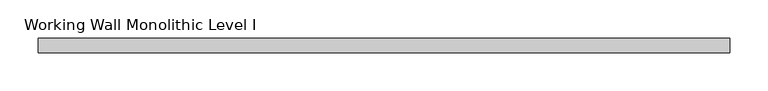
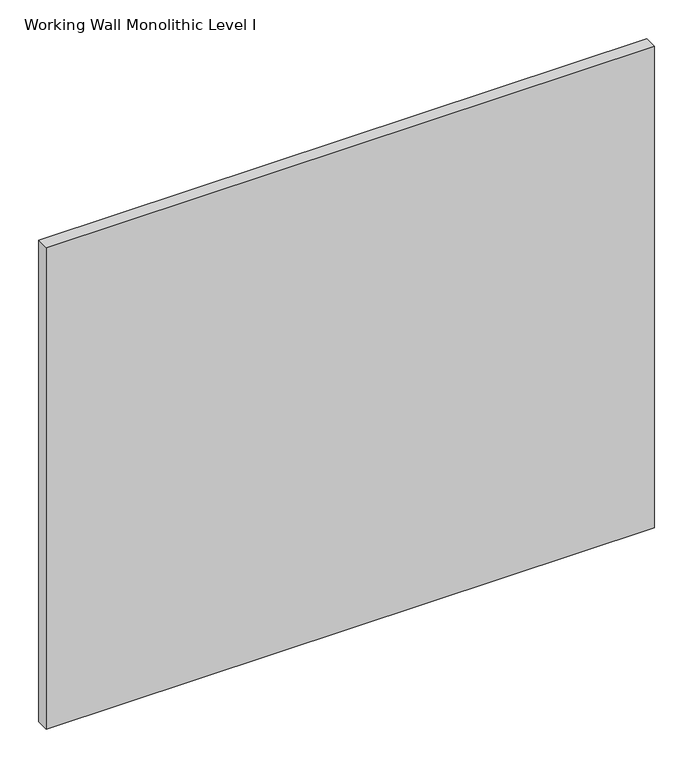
"""IFC4 building model written with IfcOpenShell, lengths in millimetres: proxy geometry, Panel-Fascia-Teknion-Altos-Standard : Working Wall Monolithic Level I."""

from ifc_helpers import new_model, si_unit, frame, origin, place, context, project, spatial, polyline, outline, extrude, source, transform, mapped, element, save


def working_wall_monolithic_level_i_34c567cd(model_context):
    return source(origin(), model_context, "Body", "SweptSolid", [
        extrude(outline(polyline([(454.025, -9.525), (-454.025, -9.525), (-454.025, 9.525), (454.025, 9.525), (454.025, -9.525)])), frame((0.0, 0.0, 3.175), z_axis=(0.0, 0.0, 1.0), x_axis=(1.0, 0.0, 0.0)), (0.0, 0.0, 1.0), 759.968),
    ])


if __name__ == "__main__":
    model = new_model("IFC4")
    model_context = context("Model", 3, world=origin())
    ifc_project = project(units=[si_unit("LENGTHUNIT", "METRE", prefix="MILLI")], contexts=[model_context])
    site = spatial("IfcSite", under=ifc_project)
    building = spatial("IfcBuilding", under=site)
    placement = place(None, origin())
    working_wall_monolithic_level_i_shape = working_wall_monolithic_level_i_34c567cd(model_context)
    element("IfcBuildingElementProxy", 1, Name="Panel-Fascia-Teknion-Altos-Standard : Working Wall Monolithic Level I", ObjectType="Panel-Fascia-Teknion-Altos-Standard : Working Wall Monolithic Level I", at=placement, inside=building, context=model_context, shape_type="MappedRepresentation", body=[
        mapped(working_wall_monolithic_level_i_shape, transform((0.0, 0.0, 0.0), x_axis=(1.0, 0.0, 0.0), y_axis=(0.0, 1.0, 0.0), z_axis=(0.0, 0.0, 1.0))),
    ])
    save(model, "model.ifc")
